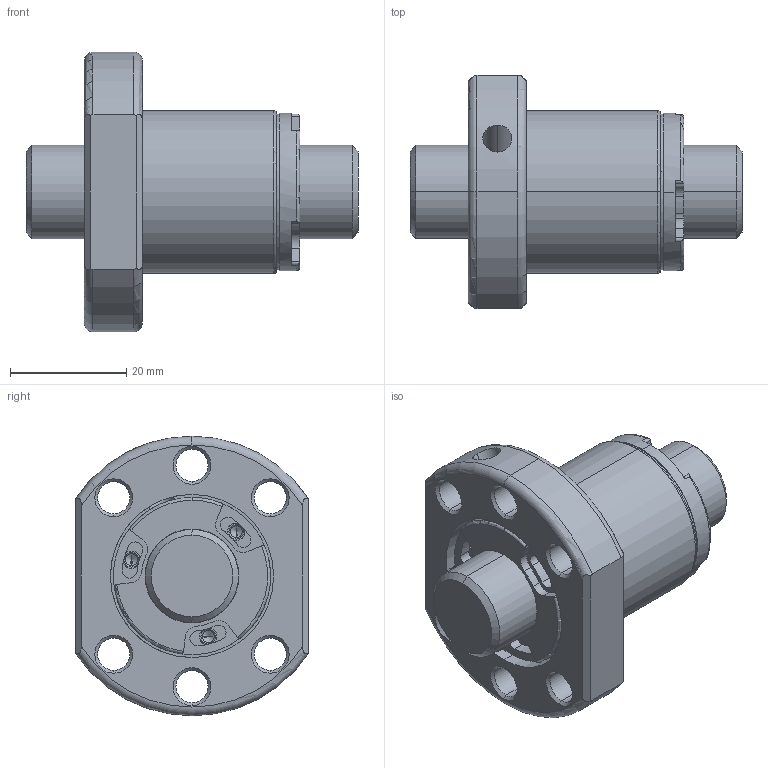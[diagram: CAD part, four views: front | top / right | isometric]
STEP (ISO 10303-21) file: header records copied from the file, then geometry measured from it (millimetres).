
FILE_DESCRIPTION (( 'STEP AP203' ), '1' );
FILE_NAME ('SFSR01605C1D-C.STEP', '2020-06-17T00:53:13', ( '' ), ( '' ), 'SwSTEP 2.0', 'SolidWorks 2013', '' );
FILE_SCHEMA (( 'CONFIG_CONTROL_DESIGN' ));
Length unit declared in the file: millimetre
Products named in the file (1): SFSR01605C1D-C
Bounding box: 57 x 40 x 48 mm (x, y, z)
Volume: 33890.3 mm3; surface area: 13724.5 mm2
Topology: 2 solids, 5 shells, 269 faces, 670 edges, 415 vertices
Faces by surface type: cylinder 129, plane 66, cone 52, torus 16, bspline 6
Entity records: 11863 total; most frequent: CARTESIAN_POINT 5235, DIRECTION 1488, ORIENTED_EDGE 1316, EDGE_CURVE 658, AXIS2_PLACEMENT_3D 622, VERTEX_POINT 415, CIRCLE 358, EDGE_LOOP 303
